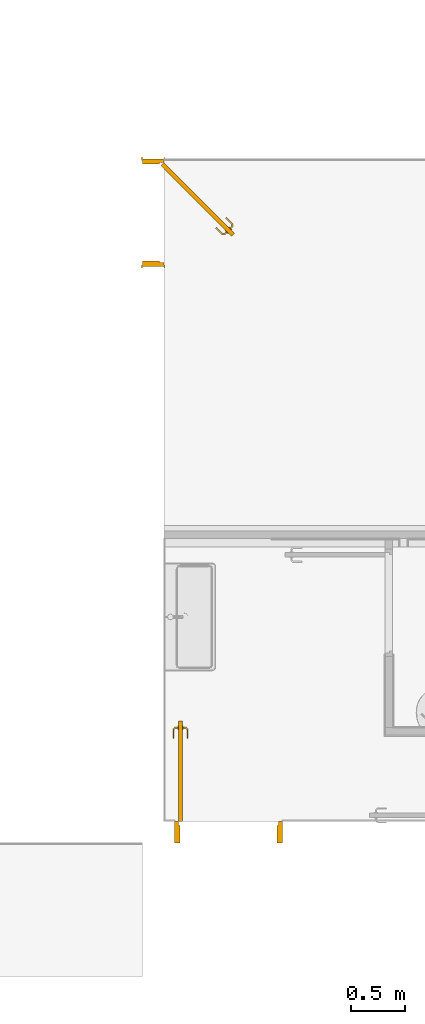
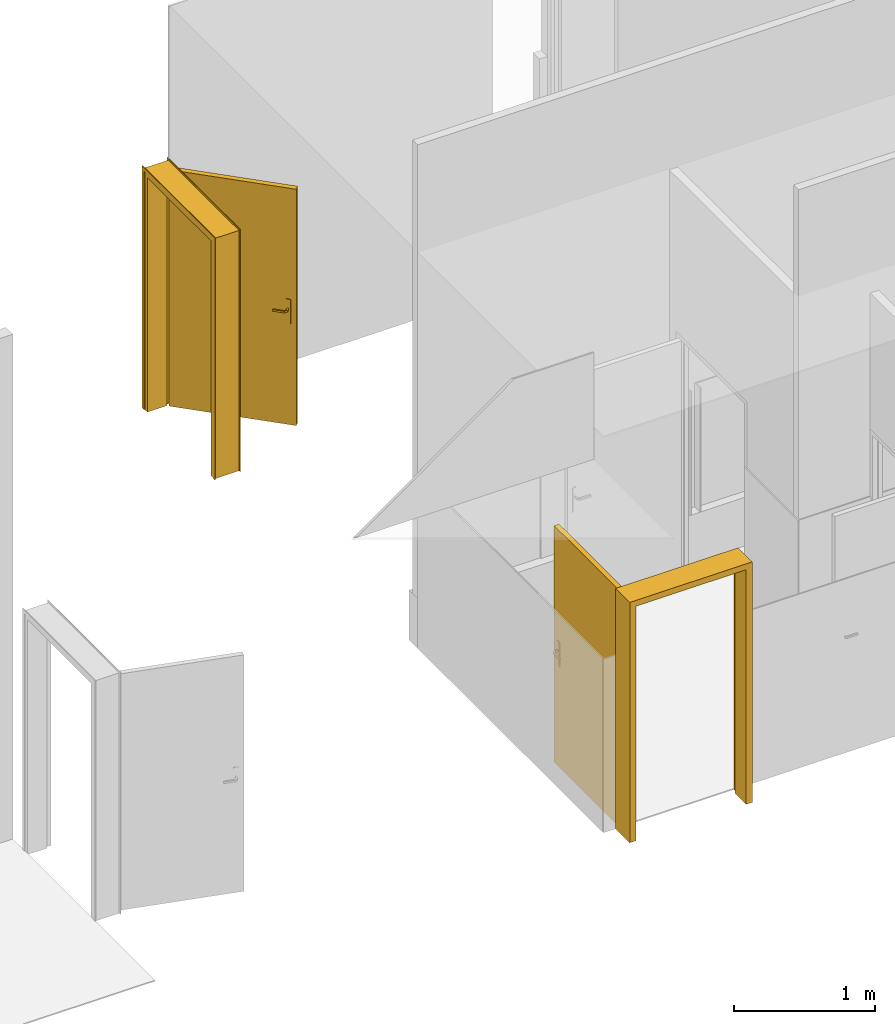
# One storey, part 11 of 18: 2 doors.
"""IFC2X3 building model written with IfcOpenShell, lengths in metres."""

from ifc_helpers import new_model, entity, si_unit, converted_unit, derived_unit, direction, frame, origin, place, context, subcontext, project, spatial, faceted_brep, source, transform, mapped, material, material_list, type_object, type_shapes, element, save


model = new_model("IFC2X3")

# Units and contexts
model_context = context("Model", 3, precision=1e-05, world=origin(), true_north=direction((6.12303176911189e-17, 1.0)))
body_context = subcontext(model_context, "Body", "Model", "MODEL_VIEW")
ifc_project = project(units=[si_unit("LENGTHUNIT", "METRE"), si_unit("AREAUNIT", "SQUARE_METRE"), si_unit("VOLUMEUNIT", "CUBIC_METRE"), converted_unit("PLANEANGLEUNIT", "DEGREE", entity("IfcRatioMeasure", 0.0174532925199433), si_unit("PLANEANGLEUNIT", "RADIAN"), dimensions=[0, 0, 0, 0, 0, 0, 0]), si_unit("MASSUNIT", "GRAM", prefix="KILO"), derived_unit("MASSDENSITYUNIT", [(si_unit("MASSUNIT", "GRAM", prefix="KILO"), 1), (si_unit("LENGTHUNIT", "METRE"), -3)]), si_unit("TIMEUNIT", "SECOND"), si_unit("FREQUENCYUNIT", "HERTZ"), si_unit("THERMODYNAMICTEMPERATUREUNIT", "DEGREE_CELSIUS"), derived_unit("THERMALTRANSMITTANCEUNIT", [(si_unit("MASSUNIT", "GRAM", prefix="KILO"), 1), (si_unit("THERMODYNAMICTEMPERATUREUNIT", "KELVIN"), -1), (si_unit("TIMEUNIT", "SECOND"), -3)]), derived_unit("VOLUMETRICFLOWRATEUNIT", [(si_unit("LENGTHUNIT", "METRE"), 3), (si_unit("TIMEUNIT", "SECOND"), -1)]), si_unit("ELECTRICCURRENTUNIT", "AMPERE"), si_unit("ELECTRICVOLTAGEUNIT", "VOLT"), si_unit("POWERUNIT", "WATT"), si_unit("FORCEUNIT", "NEWTON", prefix="KILO"), si_unit("ILLUMINANCEUNIT", "LUX"), si_unit("LUMINOUSFLUXUNIT", "LUMEN"), si_unit("LUMINOUSINTENSITYUNIT", "CANDELA"), derived_unit("USERDEFINED", [(si_unit("MASSUNIT", "GRAM", prefix="KILO"), -1), (si_unit("LENGTHUNIT", "METRE"), -2), (si_unit("TIMEUNIT", "SECOND"), 3), (si_unit("LUMINOUSFLUXUNIT", "LUMEN"), 1)]), derived_unit("LINEARVELOCITYUNIT", [(si_unit("LENGTHUNIT", "METRE"), 1), (si_unit("TIMEUNIT", "SECOND"), -1)]), si_unit("PRESSUREUNIT", "PASCAL"), derived_unit("USERDEFINED", [(si_unit("LENGTHUNIT", "METRE"), -2), (si_unit("MASSUNIT", "GRAM", prefix="KILO"), 1), (si_unit("TIMEUNIT", "SECOND"), -2)])], contexts=[model_context])

# Site, building, storey
site_placement = place(None, origin())
site = spatial("IfcSite", under=ifc_project, at=site_placement, Name="Surface", CompositionType="ELEMENT")
building_placement = place(site_placement, origin())
building = spatial("IfcBuilding", under=site, at=building_placement, Name="ExPREF", CompositionType="ELEMENT")
storey_placement = place(building_placement, frame((0.0, 0.0, -4.62)))
storey = spatial("IfcBuildingStorey", under=building, at=storey_placement, Name="R-1", CompositionType="ELEMENT", Elevation=-4.62)

# Doors
ifc_material_1 = material(Name="AA-Blanc satiné")
ifc_material_2 = material(Name="AA-Aluminium")
ifc_material_list_1 = material_list([ifc_material_1, ifc_material_2])
ifc_material_list_2 = material_list([ifc_material_1, ifc_material_2])
door_style_1 = type_object("IfcDoorStyle", Name="PP (0.93m x 2.04m) métal", ConstructionType="NOTDEFINED", OperationType="SINGLE_SWING_LEFT", ParameterTakesPrecedence=False, Sizeable=False, material=ifc_material_list_2)
shared_shape_1 = source(origin(), body_context, "Body", "Brep", [
    faceted_brep([(0.316565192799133, -0.584795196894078, 1.00778044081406), (0.313754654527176, -0.587605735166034, 1.007), (0.313754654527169, -0.587605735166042, 0.992999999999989), (0.316565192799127, -0.584795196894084, 0.99221955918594), (0.319429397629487, -0.581930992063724, 0.992219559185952), (0.32223993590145, -0.579120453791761, 0.993000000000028), (0.322239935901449, -0.579120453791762, 1.007), (0.319429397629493, -0.581930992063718, 1.00778044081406), (0.306340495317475, -0.563221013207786, 0.993000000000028), (0.306340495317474, -0.563221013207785, 1.007), (0.302365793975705, -0.564867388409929, 1.00778044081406), (0.302365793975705, -0.545331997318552, 1.00778044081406), (0.298315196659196, -0.543654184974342, 1.00778044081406), (0.298315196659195, -0.566545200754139, 1.00778044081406), (0.294340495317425, -0.568191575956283, 1.007), (0.294340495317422, -0.56819157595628, 0.992999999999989), (0.298315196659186, -0.566545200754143, 0.99221955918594), (0.298315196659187, -0.543654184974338, 0.99221955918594), (0.302365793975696, -0.545331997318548, 0.992219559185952), (0.302365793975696, -0.564867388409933, 0.992219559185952), (0.306340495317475, -0.546978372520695, 0.993000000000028), (0.306340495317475, -0.546978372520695, 1.007), (0.294340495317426, -0.542007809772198, 1.007), (0.294340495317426, -0.542007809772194, 0.992999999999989), (0.36471958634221, -0.488599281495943, 0.993000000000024), (0.361909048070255, -0.485788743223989, 0.992219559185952), (0.359044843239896, -0.482924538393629, 0.99221955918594), (0.356234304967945, -0.480114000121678, 0.992999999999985), (0.356234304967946, -0.480114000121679, 1.007), (0.359044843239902, -0.482924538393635, 1.00778044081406), (0.361909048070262, -0.485788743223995, 1.00778044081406), (0.364719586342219, -0.488599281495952, 1.007), (0.335530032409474, -0.517788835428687, 0.993000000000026), (0.335530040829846, -0.517788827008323, 1.007), (0.330705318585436, -0.51412826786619, 1.0078786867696), (0.322575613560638, -0.513772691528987, 1.007), (0.322575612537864, -0.513772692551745, 0.992999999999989), (0.330705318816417, -0.514128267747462, 0.992121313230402)], [[[0, 1, 2, 3, 4, 5, 6, 7]], [[6, 5, 8, 9]], [[9, 10, 7, 6]], [[10, 11, 12, 13, 0, 7]], [[13, 14, 1, 0]], [[2, 1, 14, 15]], [[15, 16, 3, 2]], [[16, 17, 18, 19, 4, 3]], [[19, 8, 5, 4]], [[9, 8, 20, 21]], [[21, 11, 10, 9]], [[12, 22, 14, 13]], [[15, 14, 22, 23]], [[23, 17, 16, 15]], [[18, 20, 8, 19]], [[24, 25, 26, 27, 28, 29, 30, 31]], [[21, 20, 32, 24, 31, 33]], [[33, 30, 34]], [[35, 34, 29]], [[21, 33, 11]], [[33, 31, 30]], [[28, 35, 29]], [[22, 12, 35]], [[35, 12, 34]], [[12, 11, 34]], [[11, 33, 34]], [[29, 34, 30]], [[22, 35, 28, 27, 36, 23]], [[36, 26, 37]], [[27, 26, 36]], [[17, 23, 36]], [[37, 32, 18]], [[20, 18, 32]], [[32, 25, 24]], [[26, 25, 37]], [[25, 32, 37]], [[17, 36, 37]], [[17, 37, 18]]]),
    faceted_brep([(0.351920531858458, -0.620150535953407, 1.00778044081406), (0.354784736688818, -0.617286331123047, 1.00778044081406), (0.357595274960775, -0.61447579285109, 1.00699999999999), (0.357595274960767, -0.614475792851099, 0.993000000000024), (0.354784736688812, -0.617286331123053, 0.992219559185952), (0.351920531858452, -0.620150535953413, 0.99221955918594), (0.349109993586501, -0.622961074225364, 0.992999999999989), (0.349109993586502, -0.622961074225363, 1.007), (0.368662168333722, -0.642513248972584, 1.007), (0.370308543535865, -0.638538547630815, 1.00778044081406), (0.393005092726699, -0.638538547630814, 1.00778044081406), (0.391327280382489, -0.634487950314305, 1.00778044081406), (0.371986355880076, -0.634487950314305, 1.00778044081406), (0.373632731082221, -0.630513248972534, 1.007), (0.373632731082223, -0.630513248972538, 0.993000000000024), (0.371986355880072, -0.634487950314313, 0.992219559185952), (0.391327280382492, -0.634487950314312, 0.992219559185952), (0.393005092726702, -0.638538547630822, 0.99221955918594), (0.370308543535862, -0.638538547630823, 0.99221955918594), (0.368662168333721, -0.642513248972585, 0.992999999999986), (0.394651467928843, -0.642513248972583, 1.007), (0.389680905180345, -0.630513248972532, 1.007), (0.38968090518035, -0.630513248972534, 0.993000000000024), (0.394651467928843, -0.642513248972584, 0.992999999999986), (0.456623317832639, -0.5805413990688, 0.992999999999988), (0.453812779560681, -0.577730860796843, 0.99221955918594), (0.450948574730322, -0.574866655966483, 0.992219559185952), (0.448138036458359, -0.57205611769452, 0.993000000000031), (0.44813803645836, -0.572056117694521, 1.007), (0.450948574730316, -0.574866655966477, 1.00778044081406), (0.453812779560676, -0.577730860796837, 1.00778044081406), (0.456623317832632, -0.580541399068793, 1.00699999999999), (0.422886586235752, -0.614278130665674, 1.007), (0.422570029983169, -0.606109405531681, 1.0078786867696), (0.418909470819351, -0.601284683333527, 1.007), (0.418909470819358, -0.601284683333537, 0.993000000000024), (0.422570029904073, -0.606109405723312, 0.992121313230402), (0.422886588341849, -0.614278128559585, 0.992999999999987)], [[[0, 1, 2, 3, 4, 5, 6, 7]], [[8, 9, 0, 7]], [[9, 10, 11, 12, 1, 0]], [[12, 13, 2, 1]], [[3, 2, 13, 14]], [[14, 15, 4, 3]], [[15, 16, 17, 18, 5, 4]], [[18, 19, 6, 5]], [[7, 6, 19, 8]], [[20, 10, 9, 8]], [[11, 21, 13, 12]], [[14, 13, 21, 22]], [[22, 16, 15, 14]], [[17, 23, 19, 18]], [[8, 19, 23, 20]], [[24, 25, 26, 27, 28, 29, 30, 31]], [[32, 30, 33]], [[31, 30, 32]], [[10, 20, 32]], [[33, 34, 11]], [[21, 11, 34]], [[34, 29, 28]], [[30, 29, 33]], [[29, 34, 33]], [[10, 32, 33]], [[10, 33, 11]], [[22, 21, 34, 28, 27, 35]], [[35, 26, 36]], [[37, 36, 25]], [[22, 35, 16]], [[35, 27, 26]], [[24, 37, 25]], [[23, 17, 37]], [[37, 17, 36]], [[17, 16, 36]], [[16, 35, 36]], [[25, 36, 26]], [[20, 23, 37, 24, 31, 32]]]),
    faceted_brep([(0.328853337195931, -0.579578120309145, 0.866003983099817), (0.335674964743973, -0.572756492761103, 0.870000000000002), (0.335674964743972, -0.572756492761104, 1.08), (0.32885333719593, -0.579578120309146, 1.08399601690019), (0.321532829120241, -0.586898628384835, 1.08535898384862), (0.314212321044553, -0.594219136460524, 1.08399601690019), (0.307390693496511, -0.601040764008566, 1.08), (0.307390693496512, -0.601040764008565, 0.870000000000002), (0.314212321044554, -0.594219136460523, 0.866003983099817), (0.321532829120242, -0.586898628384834, 0.86464101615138), (0.325317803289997, -0.576042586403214, 1.08399601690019), (0.332139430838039, -0.569220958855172, 1.08), (0.33213943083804, -0.569220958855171, 0.870000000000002), (0.325317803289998, -0.576042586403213, 0.866003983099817), (0.31799729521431, -0.583363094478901, 0.86464101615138), (0.310676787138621, -0.59068360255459, 0.866003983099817), (0.303855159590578, -0.597505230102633, 0.870000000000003), (0.303855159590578, -0.597505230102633, 1.08), (0.31067678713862, -0.590683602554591, 1.08399601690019), (0.317997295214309, -0.583363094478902, 1.08535898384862)], [[[0, 1, 2, 3, 4, 5, 6, 7, 8, 9]], [[10, 11, 12, 13, 14, 15, 16, 17, 18, 19]], [[11, 10, 3, 2]], [[3, 10, 19, 4]], [[19, 18, 5, 4]], [[18, 17, 6, 5]], [[7, 6, 17, 16]], [[16, 15, 8, 7]], [[8, 15, 14, 9]], [[14, 13, 0, 9]], [[13, 12, 1, 0]], [[2, 1, 12, 11]]]),
    faceted_brep([(0.360673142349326, -0.61139792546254, 0.866003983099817), (0.367494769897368, -0.604576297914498, 0.870000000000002), (0.367494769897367, -0.604576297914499, 1.08), (0.360673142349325, -0.611397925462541, 1.08399601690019), (0.353352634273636, -0.61871843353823, 1.08535898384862), (0.346032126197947, -0.626038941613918, 1.08399601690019), (0.339210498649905, -0.63286056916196, 1.08), (0.339210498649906, -0.632860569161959, 0.870000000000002), (0.346032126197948, -0.626038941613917, 0.866003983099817), (0.353352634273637, -0.618718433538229, 0.86464101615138), (0.357137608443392, -0.607862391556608, 1.08399601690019), (0.363959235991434, -0.601040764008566, 1.08), (0.363959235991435, -0.601040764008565, 0.870000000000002), (0.357137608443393, -0.607862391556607, 0.866003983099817), (0.349817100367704, -0.615182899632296, 0.86464101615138), (0.342496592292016, -0.622503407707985, 0.866003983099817), (0.335674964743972, -0.629325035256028, 0.870000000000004), (0.335674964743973, -0.629325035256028, 1.08), (0.342496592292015, -0.622503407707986, 1.08399601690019), (0.349817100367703, -0.615182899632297, 1.08535898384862)], [[[0, 1, 2, 3, 4, 5, 6, 7, 8, 9]], [[10, 11, 12, 13, 14, 15, 16, 17, 18, 19]], [[16, 15, 8, 7]], [[8, 15, 14, 9]], [[14, 13, 0, 9]], [[13, 12, 1, 0]], [[2, 1, 12, 11]], [[11, 10, 3, 2]], [[3, 10, 19, 4]], [[19, 18, 5, 4]], [[18, 17, 6, 5]], [[7, 6, 17, 16]]]),
    faceted_brep([(0.279106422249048, -0.629325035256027, 2.04), (0.936715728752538, 0.0282842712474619, 2.04), (0.936715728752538, 0.0282842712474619, 0.0), (0.279106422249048, -0.629325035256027, 0.0), (0.30739069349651, -0.657609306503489, 2.04), (0.30739069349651, -0.657609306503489, 0.0), (0.965, 0.0, 0.0), (0.965, 0.0, 2.04)], [[[0, 1, 2, 3]], [[4, 5, 6, 7]], [[1, 0, 4, 7]], [[2, 1, 7, 6]], [[3, 2, 6, 5]], [[0, 3, 5, 4]]]),
    faceted_brep([(0.0, 0.0, 0.0), (0.0, 0.200000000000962, 0.0), (0.0499999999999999, 0.200000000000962, 0.0), (0.0499999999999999, 0.040000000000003, 0.0), (0.0349999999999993, 0.040000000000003, 0.0), (0.0349999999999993, 0.0, 0.0), (0.0, 0.0, 2.07500000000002), (0.0, 0.200000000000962, 2.07500000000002), (1.0, 0.200000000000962, 2.07500000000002), (1.0, 0.200000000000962, 0.0), (0.95, 0.200000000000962, 0.0), (0.95, 0.200000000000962, 2.025), (0.0500000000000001, 0.200000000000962, 2.025), (0.05, 0.040000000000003, 2.025), (0.95, 0.040000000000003, 2.025), (0.95, 0.040000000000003, 0.0), (0.965, 0.040000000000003, 0.0), (0.965, 0.040000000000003, 2.04), (0.0349999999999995, 0.040000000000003, 2.04), (0.0349999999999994, 0.0, 2.04), (0.965, 0.0, 2.04), (0.965, 0.0, 0.0), (1.0, 0.0, 0.0), (1.0, 0.0, 2.07500000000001)], [[[0, 1, 2, 3, 4, 5]], [[1, 0, 6, 7]], [[2, 1, 7, 8, 9, 10, 11, 12]], [[3, 2, 12, 13]], [[4, 3, 13, 14, 15, 16, 17, 18]], [[5, 4, 18, 19]], [[0, 5, 19, 20, 21, 22, 23, 6]], [[8, 23, 22, 9]], [[22, 21, 16, 15, 10, 9]], [[14, 11, 10, 15]], [[20, 17, 16, 21]], [[7, 6, 23, 8]], [[13, 12, 11, 14]], [[19, 18, 17, 20]]]),
    faceted_brep([(0.0149999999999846, 0.200000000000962, 0.0), (-0.0150000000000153, 0.200000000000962, 0.0), (-0.0150000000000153, 0.205000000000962, 0.0), (0.0149999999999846, 0.205000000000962, 0.0), (0.0149999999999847, 0.200000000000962, 2.06000000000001), (0.98499999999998, 0.200000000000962, 2.06000000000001), (0.98499999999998, 0.200000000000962, 0.0), (1.01499999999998, 0.200000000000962, 0.0), (1.01499999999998, 0.200000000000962, 2.09000000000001), (-0.0150000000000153, 0.200000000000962, 2.09000000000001), (-0.0150000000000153, 0.205000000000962, 2.09000000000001), (1.01499999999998, 0.205000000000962, 2.09000000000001), (1.01499999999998, 0.205000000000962, 0.0), (0.98499999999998, 0.205000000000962, 0.0), (0.98499999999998, 0.205000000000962, 2.06000000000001), (0.0149999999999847, 0.205000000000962, 2.06000000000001)], [[[0, 1, 2, 3]], [[1, 0, 4, 5, 6, 7, 8, 9]], [[2, 1, 9, 10]], [[3, 2, 10, 11, 12, 13, 14, 15]], [[0, 3, 15, 4]], [[6, 13, 12, 7]], [[5, 14, 13, 6]], [[11, 8, 7, 12]], [[10, 9, 8, 11]], [[4, 15, 14, 5]]]),
    faceted_brep([(-0.0150000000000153, -0.00500000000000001, 0.0), (0.0149999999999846, -0.00500000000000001, 0.0), (0.0149999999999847, -0.00500000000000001, 2.06000000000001), (0.98499999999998, -0.00500000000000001, 2.06000000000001), (0.98499999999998, -0.00500000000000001, 0.0), (1.01499999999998, -0.00500000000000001, 0.0), (1.01499999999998, -0.00500000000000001, 2.09000000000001), (-0.0150000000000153, -0.00500000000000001, 2.09000000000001), (-0.0150000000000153, 0.0, 0.0), (-0.0150000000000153, 0.0, 2.09000000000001), (0.0149999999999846, 0.0, 0.0), (1.01499999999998, 0.0, 2.09000000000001), (1.01499999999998, 0.0, 0.0), (0.98499999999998, 0.0, 0.0), (0.98499999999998, 0.0, 2.06000000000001), (0.0149999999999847, 0.0, 2.06000000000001)], [[[0, 1, 2, 3, 4, 5, 6, 7]], [[8, 0, 7, 9]], [[10, 8, 9, 11, 12, 13, 14, 15]], [[1, 10, 15, 2]], [[3, 14, 13, 4]], [[11, 6, 5, 12]], [[9, 7, 6, 11]], [[2, 15, 14, 3]], [[4, 13, 12, 5]], [[1, 0, 8, 10]]]),
])
type_shapes(door_style_1, [shared_shape_1])
door_1_placement = place(storey_placement, frame((45.3197436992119, -188.106488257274, 0.0), z_axis=(0.0, 0.0, 1.0), x_axis=(0.0, 1.0, 0.0)))
element("IfcDoor", 1, at=door_1_placement, inside=storey, type_object=door_style_1, material=ifc_material_list_1, Name="Int. Simple:PP (0.93m x 2.04m) métal", ObjectType="PP (0.93m x 2.04m) métal", OverallHeight=2.09000000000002, OverallWidth=1.03, context=body_context, shape_type="MappedRepresentation", body=[
    mapped(shared_shape_1, transform((0.0, 0.0, 0.0), scale=1.0)),
])
door_style_2 = type_object("IfcDoorStyle", Name="PP (0.93m x 2.04m)", ConstructionType="NOTDEFINED", OperationType="SINGLE_SWING_LEFT", ParameterTakesPrecedence=False, Sizeable=False, material=ifc_material_1)
shared_shape_2 = source(origin(), body_context, "Body", "Brep", [
    faceted_brep([(0.919999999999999, -0.872025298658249, 1.00778044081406), (0.919999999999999, -0.876000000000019, 1.007), (0.919999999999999, -0.876000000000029, 0.992999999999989), (0.919999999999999, -0.872025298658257, 0.99221955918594), (0.919999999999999, -0.867974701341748, 0.992219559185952), (0.919999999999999, -0.863999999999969, 0.993000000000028), (0.919999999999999, -0.86399999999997, 1.007), (0.919999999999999, -0.867974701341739, 1.00778044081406), (0.897514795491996, -0.863999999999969, 0.993000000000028), (0.897514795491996, -0.863999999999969, 1.007), (0.895868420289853, -0.867974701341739, 1.00778044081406), (0.882054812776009, -0.854161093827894, 1.00778044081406), (0.8780042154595, -0.855838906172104, 1.00778044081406), (0.894190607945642, -0.872025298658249, 1.00778044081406), (0.892544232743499, -0.876000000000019, 1.007), (0.892544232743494, -0.876000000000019, 0.992999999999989), (0.894190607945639, -0.872025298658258, 0.99221955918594), (0.87800421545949, -0.855838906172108, 0.99221955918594), (0.882054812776, -0.854161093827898, 0.992219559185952), (0.895868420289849, -0.867974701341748, 0.992219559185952), (0.886029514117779, -0.852514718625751, 0.993000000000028), (0.886029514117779, -0.852514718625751, 1.007), (0.87402951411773, -0.857485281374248, 1.007), (0.874029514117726, -0.857485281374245, 0.992999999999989), (0.886029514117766, -0.769954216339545, 0.993000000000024), (0.882054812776, -0.769954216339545, 0.992219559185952), (0.87800421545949, -0.769954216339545, 0.99221955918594), (0.874029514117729, -0.769954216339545, 0.992999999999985), (0.87402951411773, -0.769954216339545, 1.007), (0.878004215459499, -0.769954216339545, 1.00778044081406), (0.882054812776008, -0.769954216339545, 1.00778044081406), (0.886029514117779, -0.769954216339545, 1.007), (0.886029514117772, -0.811234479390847, 0.993000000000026), (0.886029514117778, -0.811234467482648, 1.007), (0.880029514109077, -0.812057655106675, 1.0078786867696), (0.87402951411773, -0.81755479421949, 1.007), (0.874029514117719, -0.8175547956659, 0.992999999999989), (0.880029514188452, -0.812057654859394, 0.992121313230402)], [[[0, 1, 2, 3, 4, 5, 6, 7]], [[6, 5, 8, 9]], [[9, 10, 7, 6]], [[10, 11, 12, 13, 0, 7]], [[13, 14, 1, 0]], [[2, 1, 14, 15]], [[15, 16, 3, 2]], [[16, 17, 18, 19, 4, 3]], [[19, 8, 5, 4]], [[9, 8, 20, 21]], [[21, 11, 10, 9]], [[12, 22, 14, 13]], [[15, 14, 22, 23]], [[23, 17, 16, 15]], [[18, 20, 8, 19]], [[24, 25, 26, 27, 28, 29, 30, 31]], [[21, 20, 32, 24, 31, 33]], [[33, 30, 34]], [[35, 34, 29]], [[21, 33, 11]], [[33, 31, 30]], [[28, 35, 29]], [[22, 12, 35]], [[35, 12, 34]], [[12, 11, 34]], [[11, 33, 34]], [[29, 34, 30]], [[22, 35, 28, 27, 36, 23]], [[36, 26, 37]], [[27, 26, 36]], [[17, 23, 36]], [[37, 32, 18]], [[20, 18, 32]], [[32, 25, 24]], [[26, 25, 37]], [[25, 32, 37]], [[17, 36, 37]], [[17, 37, 18]]]),
    faceted_brep([(0.969999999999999, -0.872025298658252, 1.00778044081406), (0.969999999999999, -0.867974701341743, 1.00778044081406), (0.969999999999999, -0.863999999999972, 1.00699999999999), (0.969999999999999, -0.863999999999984, 0.993000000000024), (0.969999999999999, -0.867974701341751, 0.992219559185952), (0.969999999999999, -0.87202529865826, 0.99221955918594), (0.969999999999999, -0.876000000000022, 0.992999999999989), (0.969999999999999, -0.876000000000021, 1.007), (0.997650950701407, -0.876000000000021, 1.007), (0.996004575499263, -0.872025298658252, 1.00778044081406), (1.01205345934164, -0.855976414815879, 1.00778044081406), (1.00800286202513, -0.854298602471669, 1.00778044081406), (0.994326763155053, -0.867974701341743, 1.00778044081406), (0.992680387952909, -0.863999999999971, 1.007), (0.992680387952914, -0.863999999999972, 0.993000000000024), (0.994326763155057, -0.867974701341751, 0.992219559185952), (1.00800286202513, -0.854298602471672, 0.992219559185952), (1.01205345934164, -0.855976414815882, 0.99221955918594), (0.996004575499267, -0.87202529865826, 0.99221955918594), (0.997650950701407, -0.876000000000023, 0.992999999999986), (1.0160281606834, -0.857622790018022, 1.007), (1.00402816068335, -0.852652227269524, 1.007), (1.00402816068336, -0.852652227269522, 0.993000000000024), (1.01602816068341, -0.857622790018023, 0.992999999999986), (1.01602816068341, -0.769981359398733, 0.992999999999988), (1.01205345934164, -0.769981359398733, 0.99221955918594), (1.00800286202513, -0.769981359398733, 0.992219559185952), (1.00402816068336, -0.769981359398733, 0.993000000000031), (1.00402816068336, -0.769981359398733, 1.007), (1.00800286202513, -0.769981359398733, 1.00778044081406), (1.01205345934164, -0.769981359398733, 1.00778044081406), (1.01602816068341, -0.769981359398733, 1.00699999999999), (1.01602816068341, -0.817692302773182, 1.007), (1.01002816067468, -0.812139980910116, 1.0078786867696), (1.00402816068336, -0.811316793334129, 1.007), (1.00402816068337, -0.811316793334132, 0.993000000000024), (1.01002816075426, -0.812139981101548, 0.992121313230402), (1.01602816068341, -0.817692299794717, 0.992999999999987)], [[[0, 1, 2, 3, 4, 5, 6, 7]], [[8, 9, 0, 7]], [[9, 10, 11, 12, 1, 0]], [[12, 13, 2, 1]], [[3, 2, 13, 14]], [[14, 15, 4, 3]], [[15, 16, 17, 18, 5, 4]], [[18, 19, 6, 5]], [[7, 6, 19, 8]], [[20, 10, 9, 8]], [[11, 21, 13, 12]], [[14, 13, 21, 22]], [[22, 16, 15, 14]], [[17, 23, 19, 18]], [[8, 19, 23, 20]], [[24, 25, 26, 27, 28, 29, 30, 31]], [[32, 30, 33]], [[31, 30, 32]], [[10, 20, 32]], [[33, 34, 11]], [[21, 11, 34]], [[34, 29, 28]], [[30, 29, 33]], [[29, 34, 33]], [[10, 32, 33]], [[10, 33, 11]], [[22, 21, 34, 28, 27, 35]], [[35, 26, 36]], [[37, 36, 25]], [[22, 35, 16]], [[35, 27, 26]], [[24, 37, 25]], [[23, 17, 37]], [[37, 17, 36]], [[17, 16, 36]], [[16, 35, 36]], [[25, 36, 26]], [[20, 23, 37, 24, 31, 32]]]),
    faceted_brep([(0.924999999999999, -0.859647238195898, 0.866003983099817), (0.924999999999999, -0.849999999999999, 0.870000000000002), (0.924999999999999, -0.850000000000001, 1.08), (0.924999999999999, -0.8596472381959, 1.08399601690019), (0.924999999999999, -0.870000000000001, 1.08535898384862), (0.924999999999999, -0.880352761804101, 1.08399601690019), (0.924999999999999, -0.89, 1.08), (0.924999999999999, -0.889999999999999, 0.870000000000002), (0.924999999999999, -0.8803527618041, 0.866003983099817), (0.924999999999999, -0.869999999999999, 0.86464101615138), (0.919999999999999, -0.8596472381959, 1.08399601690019), (0.92, -0.850000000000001, 1.08), (0.92, -0.849999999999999, 0.870000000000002), (0.919999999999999, -0.859647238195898, 0.866003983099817), (0.919999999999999, -0.869999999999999, 0.86464101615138), (0.919999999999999, -0.8803527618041, 0.866003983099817), (0.919999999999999, -0.89, 0.870000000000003), (0.919999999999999, -0.89, 1.08), (0.919999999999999, -0.880352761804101, 1.08399601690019), (0.919999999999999, -0.870000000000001, 1.08535898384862)], [[[0, 1, 2, 3, 4, 5, 6, 7, 8, 9]], [[10, 11, 12, 13, 14, 15, 16, 17, 18, 19]], [[11, 10, 3, 2]], [[3, 10, 19, 4]], [[19, 18, 5, 4]], [[18, 17, 6, 5]], [[7, 6, 17, 16]], [[16, 15, 8, 7]], [[8, 15, 14, 9]], [[14, 13, 0, 9]], [[13, 12, 1, 0]], [[2, 1, 12, 11]]]),
    faceted_brep([(0.969999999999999, -0.859647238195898, 0.866003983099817), (0.969999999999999, -0.849999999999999, 0.870000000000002), (0.969999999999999, -0.850000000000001, 1.08), (0.969999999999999, -0.8596472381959, 1.08399601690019), (0.969999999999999, -0.87, 1.08535898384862), (0.969999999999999, -0.880352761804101, 1.08399601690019), (0.969999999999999, -0.89, 1.08), (0.969999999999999, -0.889999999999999, 0.870000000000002), (0.969999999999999, -0.8803527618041, 0.866003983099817), (0.969999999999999, -0.869999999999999, 0.86464101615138), (0.964999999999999, -0.8596472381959, 1.08399601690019), (0.965, -0.850000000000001, 1.08), (0.965, -0.849999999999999, 0.870000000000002), (0.964999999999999, -0.859647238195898, 0.866003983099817), (0.964999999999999, -0.869999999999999, 0.86464101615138), (0.964999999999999, -0.8803527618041, 0.866003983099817), (0.964999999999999, -0.89, 0.870000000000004), (0.964999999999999, -0.89, 1.08), (0.964999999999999, -0.880352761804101, 1.08399601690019), (0.964999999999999, -0.87, 1.08535898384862)], [[[0, 1, 2, 3, 4, 5, 6, 7, 8, 9]], [[10, 11, 12, 13, 14, 15, 16, 17, 18, 19]], [[16, 15, 8, 7]], [[8, 15, 14, 9]], [[14, 13, 0, 9]], [[13, 12, 1, 0]], [[2, 1, 12, 11]], [[11, 10, 3, 2]], [[3, 10, 19, 4]], [[19, 18, 5, 4]], [[18, 17, 6, 5]], [[7, 6, 17, 16]]]),
    faceted_brep([(0.924999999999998, -0.93, 2.04), (0.924999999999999, 0.0, 2.04), (0.924999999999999, 0.0, 0.0), (0.924999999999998, -0.93, 0.0), (0.964999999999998, -0.93, 2.04), (0.964999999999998, -0.93, 0.0), (0.965, 0.0, 0.0), (0.965, 0.0, 2.04)], [[[0, 1, 2, 3]], [[4, 5, 6, 7]], [[1, 0, 4, 7]], [[2, 1, 7, 6]], [[3, 2, 6, 5]], [[0, 3, 5, 4]]]),
    faceted_brep([(0.0, 0.0, 0.0), (0.0, 0.200000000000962, 0.0), (0.0499999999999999, 0.200000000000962, 0.0), (0.0499999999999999, 0.0400000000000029, 0.0), (0.0349999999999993, 0.040000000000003, 0.0), (0.0349999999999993, 0.0, 0.0), (0.0, 0.0, 2.07500000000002), (0.0, 0.200000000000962, 2.07500000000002), (1.0, 0.200000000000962, 2.07500000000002), (1.0, 0.200000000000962, 0.0), (0.95, 0.200000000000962, 0.0), (0.95, 0.200000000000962, 2.025), (0.0500000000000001, 0.200000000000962, 2.025), (0.05, 0.0400000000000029, 2.025), (0.95, 0.040000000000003, 2.025), (0.95, 0.040000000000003, 0.0), (0.965, 0.040000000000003, 0.0), (0.965, 0.040000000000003, 2.04), (0.0349999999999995, 0.040000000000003, 2.04), (0.0349999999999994, 0.0, 2.04), (0.965, 0.0, 2.04), (0.965, 0.0, 0.0), (1.0, 0.0, 0.0), (1.0, 0.0, 2.07500000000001)], [[[0, 1, 2, 3, 4, 5]], [[1, 0, 6, 7]], [[2, 1, 7, 8, 9, 10, 11, 12]], [[3, 2, 12, 13]], [[4, 3, 13, 14, 15, 16, 17, 18]], [[5, 4, 18, 19]], [[0, 5, 19, 20, 21, 22, 23, 6]], [[8, 23, 22, 9]], [[22, 21, 16, 15, 10, 9]], [[14, 11, 10, 15]], [[20, 17, 16, 21]], [[7, 6, 23, 8]], [[13, 12, 11, 14]], [[19, 18, 17, 20]]]),
])
type_shapes(door_style_2, [shared_shape_2])
door_2_placement = place(storey_placement, frame((46.4197436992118, -193.259651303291, 0.0), z_axis=(0.0, 0.0, 1.0), x_axis=(-1.0, 0.0, 0.0)))
element("IfcDoor", 2, at=door_2_placement, inside=storey, type_object=door_style_2, material=ifc_material_1, Name="Porte intérieur bois:PP (0.93m x 2.04m)", ObjectType="PP (0.93m x 2.04m)", OverallHeight=2.07500000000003, OverallWidth=1.01602816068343, context=body_context, shape_type="MappedRepresentation", body=[
    mapped(shared_shape_2, transform((0.0, 0.0, 0.0), scale=1.0)),
])

save(model, "model.ifc")
